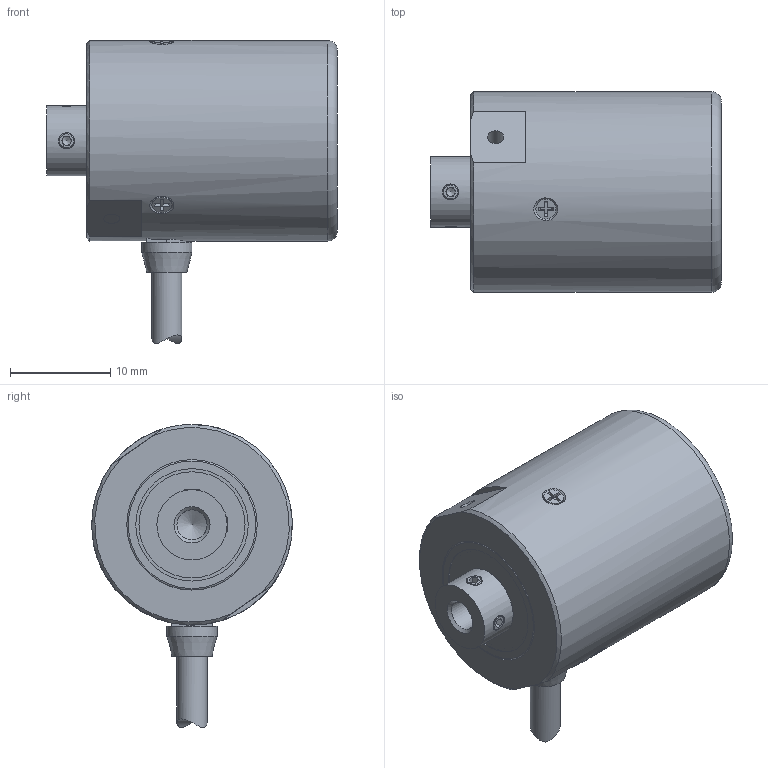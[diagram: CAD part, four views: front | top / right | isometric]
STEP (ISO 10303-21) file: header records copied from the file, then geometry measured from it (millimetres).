
FILE_DESCRIPTION(('STEP AP214'),'1');
FILE_NAME('P.stp','2025-03-17T07:40:56',(' '),(' '),'Spatial InterOp 3D',' ',' ');
FILE_SCHEMA(('AUTOMOTIVE_DESIGN { 1 0 10303 214 1 1 1 1 }'));
Length unit declared in the file: millimetre
Products named in the file (1): L2D02 MEH-12-＊＊＊P
Bounding box: 29 x 20 x 30.2 mm (x, y, z)
Volume: 7784.3 mm3; surface area: 3015.5 mm2
Topology: 1 solids, 6 shells, 171 faces, 394 edges, 253 vertices
Faces by surface type: plane 96, cylinder 47, cone 21, torus 7
Full cylindrical faces by diameter (mm): 1.5 x3, 1.6 x5, 2 x3, 3 x2, 5 x3, 6.6 x2, 6.8 x2, 7 x1, 7.5 x2, 10.58 x2, 11.2 x2, 13 x1, 20 x1
Entity records: 6203 total; most frequent: CARTESIAN_POINT 1217, DIRECTION 741, ORIENTED_EDGE 612, EDGE_CURVE 306, AXIS2_PLACEMENT_3D 289, EDGE_LOOP 254, VERTEX_POINT 225, FACE_OUTER_BOUND 207
